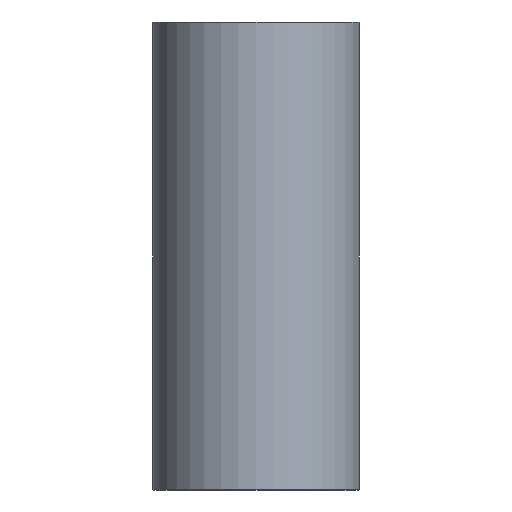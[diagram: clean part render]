
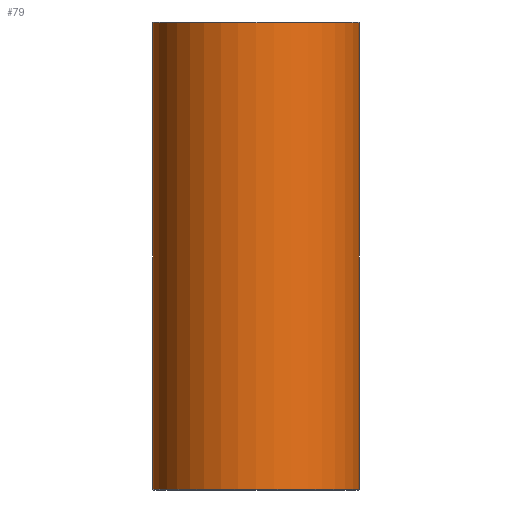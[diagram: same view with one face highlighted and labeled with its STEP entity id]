
A CAD part, front view. The second image highlights one B-rep face of the part: STEP entity #79.
In plain terms, the highlighted cylindrical face has radius 37.5 mm (diameter 75 mm), a full revolution.
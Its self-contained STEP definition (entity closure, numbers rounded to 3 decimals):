
#79=ADVANCED_FACE('',(#96,#97),#98,.T.);
#96=FACE_OUTER_BOUND('',#120,.T.);
#97=FACE_OUTER_BOUND('',#121,.T.);
#98=CYLINDRICAL_SURFACE('',#122,37.5);
#120=EDGE_LOOP('',(#152));
#121=EDGE_LOOP('',(#153));
#122=AXIS2_PLACEMENT_3D('',#154,#155,#156);
#152=ORIENTED_EDGE('',*,*,#178,.T.);
#153=ORIENTED_EDGE('',*,*,#177,.T.);
#154=CARTESIAN_POINT('',(0.,0.0,170.0));
#155=DIRECTION('',(0.0,0.0,-1.0));
#156=DIRECTION('',(-1.0,0.0,0.0));
#177=EDGE_CURVE('',#190,#190,#191,.T.);
#178=EDGE_CURVE('',#192,#192,#193,.F.);
#190=VERTEX_POINT('',#206);
#191=CIRCLE('',#207,37.5);
#192=VERTEX_POINT('',#208);
#193=CIRCLE('',#209,37.5);
#206=CARTESIAN_POINT('',(37.5,0.0,0.2));
#207=AXIS2_PLACEMENT_3D('',#227,#228,#229);
#208=CARTESIAN_POINT('',(37.5,0.,169.8));
#209=AXIS2_PLACEMENT_3D('',#230,#231,#232);
#227=CARTESIAN_POINT('',(0.,0.0,0.2));
#228=DIRECTION('',(0.0,0.0,1.0));
#229=DIRECTION('',(1.0,0.0,0.0));
#230=CARTESIAN_POINT('',(0.,0.0,169.8));
#231=DIRECTION('',(0.0,0.0,1.0));
#232=DIRECTION('',(1.0,0.0,0.0));
